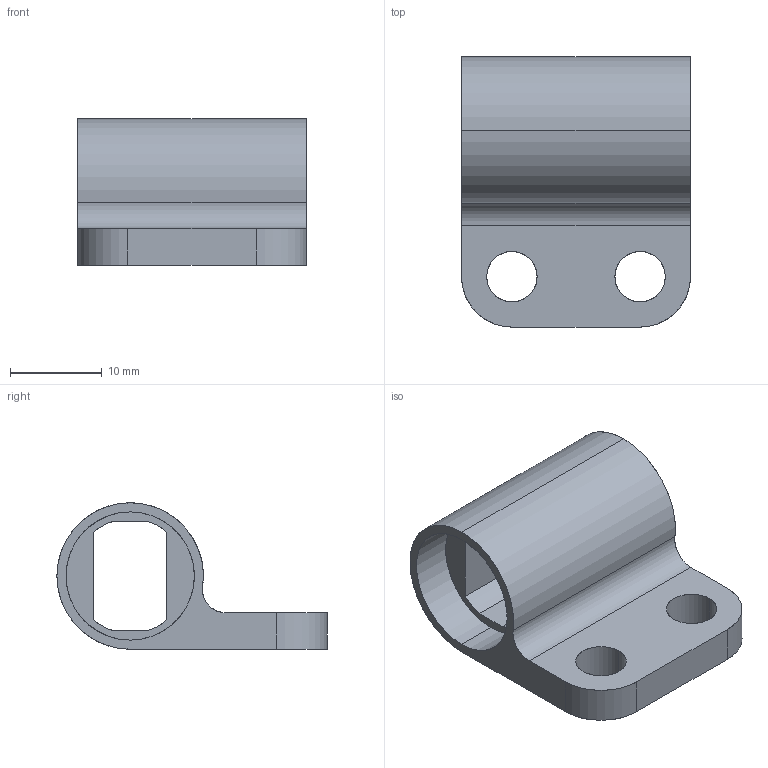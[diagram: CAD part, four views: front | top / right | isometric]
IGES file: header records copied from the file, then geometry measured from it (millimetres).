
Start section: SolidWorks IGES file using analytic representation for surfaces
Bounding box: 25 x 29.5 x 16 mm (x, y, z)
Surface area: 3327.9 mm2 (no closed solid volume)
Topology: 0 solids, 0 shells, 28 faces, 478 edges, 478 vertices
Faces by surface type: revolution 17, bspline 11
